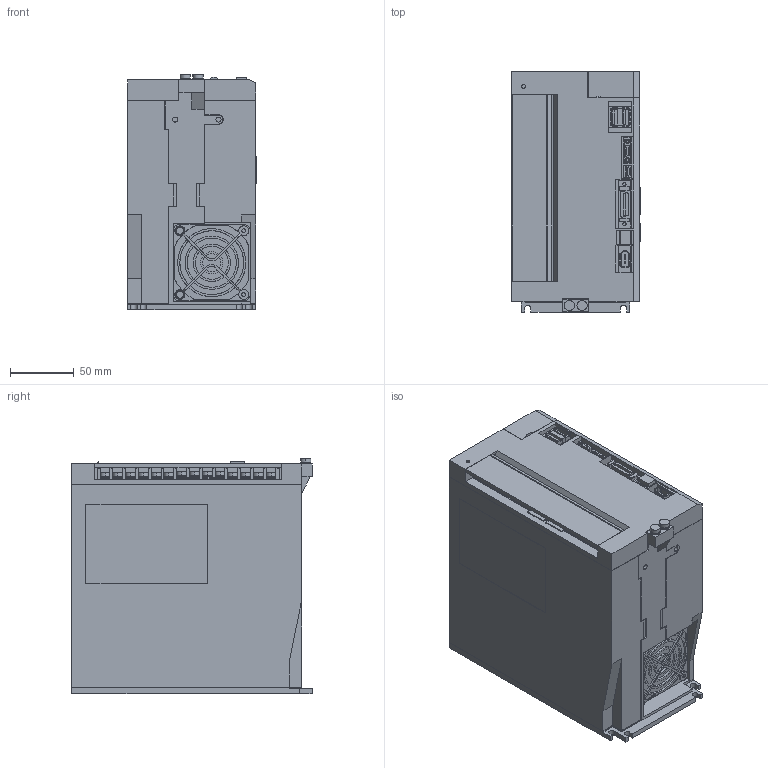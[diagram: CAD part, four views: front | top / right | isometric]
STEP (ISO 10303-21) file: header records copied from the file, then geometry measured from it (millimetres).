
FILE_DESCRIPTION (( 'STEP AP203' ), '1' );
FILE_NAME ('sgd7s_200a10a.STEP', '2015-09-18T08:26:04', ( '匠エンジニアリング山之内' ), ( 'TAKUMI-Engniaring' ), 'SwSTEP 2.0', 'SolidWorks 2006303', '' );
FILE_SCHEMA (( 'CONFIG_CONTROL_DESIGN' ));
Products named in the file (7): sgd7s_200a10a_terminal; sgd7s_200a10a_cover3; sgd7s_200a10a; sgd7s_200a10a_base; sgd7s_200a10a_cover; sgd7s_200a10a_cover2; sgd7s_200a10a_connector
Assembly tree (8 placements, depth 2):
  sgd7s_200a10a
    sgd7s_200a10a_cover3
    sgd7s_200a10a_terminal  x2
    sgd7s_200a10a_cover2  x2
    sgd7s_200a10a_connector
    sgd7s_200a10a_cover
    sgd7s_200a10a_base
Bounding box: 100.5 x 188 x 184.6 mm (x, y, z)
Volume: 3111602.7 mm3; surface area: 197402.4 mm2
Topology: 8 solids, 8 shells, 1898 faces, 5039 edges, 3304 vertices
Faces by surface type: plane 1584, cylinder 309, cone 4, sphere 1
Entity records: 57858 total; most frequent: CARTESIAN_POINT 10043, ORIENTED_EDGE 9874, DIRECTION 9427, EDGE_CURVE 4937, VECTOR 4187, LINE 4187, VERTEX_POINT 3236, AXIS2_PLACEMENT_3D 2620
